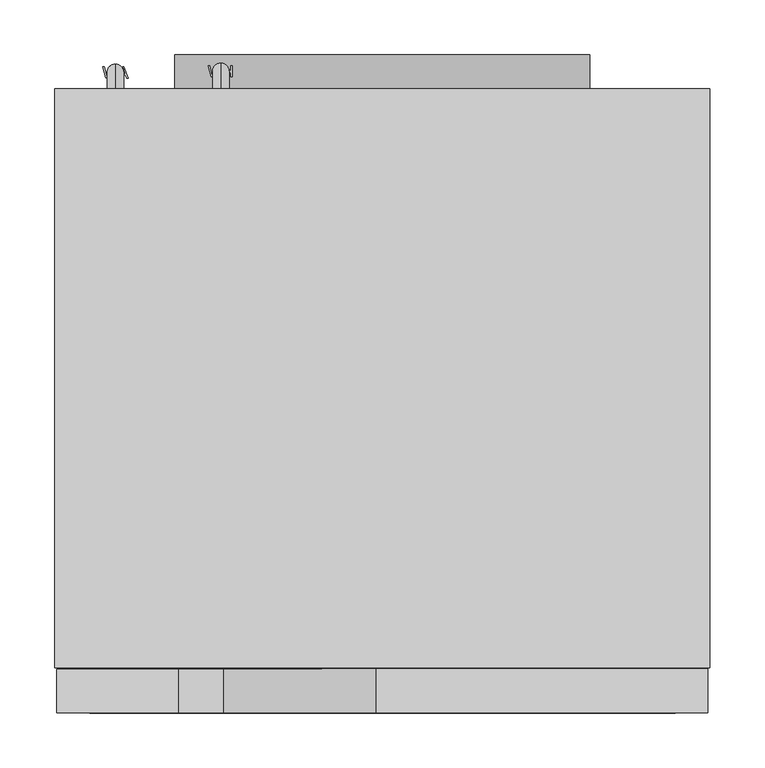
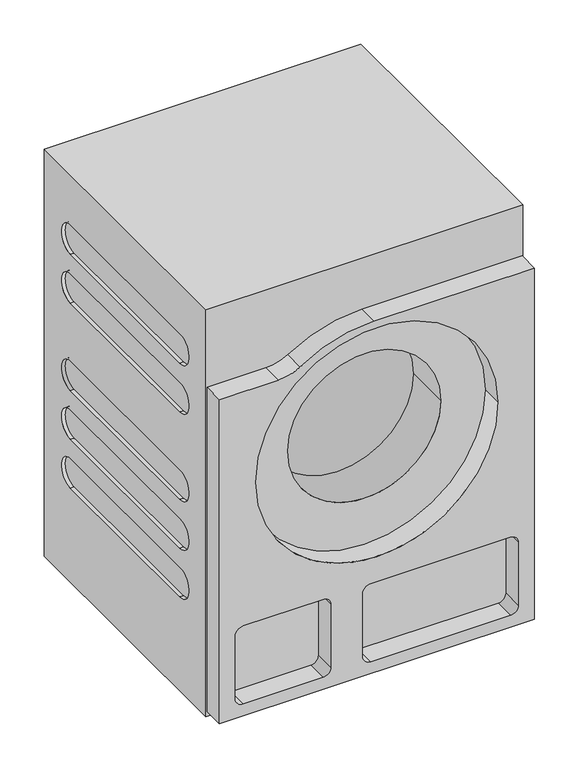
"""IFC4 building model written with IfcOpenShell, lengths in millimetres: proxy geometry, 11005920_CH_WCR860WPS_LW : 11CR8606_CH_11005920_WCR860WPS_LW."""

from ifc_helpers import new_model, si_unit, point, frame, frame_2d, origin, origin_with_axes, place, context, project, spatial, polyline, circle_curve, ellipse_curve, trimmed, segment, composite_curve, outline, extrude, source, transform, mapped, element, save
from ifc_brep_helpers import plane_surface, cylinder_surface, revolved_surface, advanced_brep


def specialty_equipment_07e524df(model_context):
    return source(origin(), model_context, "Body", "SolidModel", [
        extrude(outline(composite_curve([segment(polyline([(663.5, -296.5), (18.0, -296.5), (18.0, 296.5), (717.5, 296.5), (717.5, -5.7577941)]), True, "CONTINUOUS"), segment(trimmed(circle_curve(frame_2d((468.7317583, -5.7577941)), 248.7682417), [point((717.5, -5.7577941))], [point((674.9462734, -144.9023658))], False, "CARTESIAN"), True, "CONTINUOUS"), segment(trimmed(circle_curve(frame_2d((742.0250428, -185.7266361)), 78.5250428), [point((674.9462734, -144.9023658))], [point((663.5, -185.7266361))], True, "CARTESIAN"), True, "CONTINUOUS"), segment(polyline([(663.5, -185.7266361), (663.5, -296.5)]), True, "CONTINUOUS")], self_intersect=False), holes=[composite_curve([segment(trimmed(circle_curve(frame_2d((475.0, 0.0)), 228.0), [point((475.0, -228.0))], [point((475.0, 228.0))], True, "CARTESIAN"), True, "CONTINUOUS"), segment(trimmed(circle_curve(frame_2d((475.0, 0.0)), 228.0), [point((475.0, 228.0))], [point((475.0, -228.0))], True, "CARTESIAN"), True, "CONTINUOUS")], self_intersect=False), composite_curve([segment(polyline([(182.0, 266.5), (57.0, 266.5)]), True, "CONTINUOUS"), segment(trimmed(circle_curve(frame_2d((57.0, 251.5)), 15.0), [point((57.0, 266.5))], [point((42.0, 251.5))], True, "CARTESIAN"), True, "CONTINUOUS"), segment(polyline([(42.0, 251.5), (42.0, -11.5)]), True, "CONTINUOUS"), segment(trimmed(circle_curve(frame_2d((57.0, -11.5)), 15.0), [point((42.0, -11.5))], [point((57.0, -26.5))], True, "CARTESIAN"), True, "CONTINUOUS"), segment(polyline([(57.0, -26.5), (182.0, -26.5)]), True, "CONTINUOUS"), segment(trimmed(circle_curve(frame_2d((182.0, -11.5)), 15.0), [point((182.0, -26.5))], [point((197.0, -11.5))], True, "CARTESIAN"), True, "CONTINUOUS"), segment(polyline([(197.0, -11.5), (197.0, 251.5)]), True, "CONTINUOUS"), segment(trimmed(circle_curve(frame_2d((182.0, 251.5)), 15.0), [point((197.0, 251.5))], [point((182.0, 266.5))], True, "CARTESIAN"), True, "CONTINUOUS")], self_intersect=False), composite_curve([segment(polyline([(182.0, -86.5), (57.0, -86.5)]), True, "CONTINUOUS"), segment(trimmed(circle_curve(frame_2d((57.0, -101.5)), 15.0), [point((57.0, -86.5))], [point((42.0, -101.5))], True, "CARTESIAN"), True, "CONTINUOUS"), segment(polyline([(42.0, -101.5), (42.0, -251.5)]), True, "CONTINUOUS"), segment(trimmed(circle_curve(frame_2d((57.0, -251.5)), 15.0), [point((42.0, -251.5))], [point((57.0, -266.5))], True, "CARTESIAN"), True, "CONTINUOUS"), segment(polyline([(57.0, -266.5), (182.0, -266.5)]), True, "CONTINUOUS"), segment(trimmed(circle_curve(frame_2d((182.0, -251.5)), 15.0), [point((182.0, -266.5))], [point((197.0, -251.5))], True, "CARTESIAN"), True, "CONTINUOUS"), segment(polyline([(197.0, -251.5), (197.0, -101.5)]), True, "CONTINUOUS"), segment(trimmed(circle_curve(frame_2d((182.0, -101.5)), 15.0), [point((197.0, -101.5))], [point((182.0, -86.5))], True, "CARTESIAN"), True, "CONTINUOUS")], self_intersect=False)]), frame((0.0, -600.0, 0.0), z_axis=(0.0, 1.0, 0.0), x_axis=(0.0, 0.0, 1.0)), (0.0, 0.0, 1.0), 40.0),
        extrude(outline(composite_curve([segment(trimmed(circle_curve(frame_2d((172.0, 0.0)), 85.0), [point((128.0, -72.7255113))], [point((128.0, 72.7255113))], False, "CARTESIAN"), True, "CONTINUOUS"), segment(polyline([(128.0, 72.7255113), (457.0, 186.7618805)]), True, "CONTINUOUS"), segment(trimmed(circle_curve(frame_2d((486.0, 0.0)), 189.0), [point((457.0, 186.7618805))], [point((457.0, -186.7618805))], False, "CARTESIAN"), True, "CONTINUOUS"), segment(polyline([(457.0, -186.7618805), (128.0, -72.7255113)]), True, "CONTINUOUS")], self_intersect=False)), frame((0.0, -32.0, 0.0), z_axis=(0.0, 1.0, 0.0), x_axis=(0.0, 0.0, 1.0)), (0.0, 0.0, 1.0), 31.0),
        extrude(outline(polyline([(-245.0283197, -21.9198802), (-247.6226621, -13.1308402), (-250.3496859, -21.9195554), (-251.6847859, -21.9195554), (-254.4297172, -11.8631004), (-253.1339679, -11.8631004), (-251.0443144, -20.5032988), (-248.5340813, -11.857379), (-246.6711164, -11.857379), (-244.1552565, -20.5022346), (-242.0681971, -11.8564437), (-240.7754796, -11.8564437), (-243.5175667, -21.9198802), (-245.0283197, -21.9198802)])), frame((0.0, 0.0, 722.0), z_axis=(0.0, 0.0, 1.0), x_axis=(1.0, 0.0, 0.0)), (0.0, 0.0, 1.0), 1.0),
        extrude(outline(polyline([(-239.0721098, -22.0032768), (-240.4069745, -22.0032768), (-236.3935979, -11.9549404), (-235.3188514, -11.9549404), (-231.3155433, -21.9958861), (-232.6216403, -21.9958861), (-233.7882604, -18.865268), (-237.929968, -18.865268), (-239.0721098, -22.0032768)]), holes=[polyline([(-237.4730851, -17.6099926), (-234.256037, -17.6099926), (-235.8835115, -13.2426749), (-237.4730851, -17.6099926)])]), frame((0.0, 0.0, 722.0), z_axis=(0.0, 0.0, 1.0), x_axis=(1.0, 0.0, 0.0)), (0.0, 0.0, 1.0), 1.0),
        extrude(outline(polyline([(-149.0371951, -21.0084005), (-151.6315375, -12.2193606), (-154.3585613, -21.0080758), (-155.6936613, -21.0080758), (-158.4385926, -10.9516208), (-157.1428433, -10.9516208), (-155.0531898, -19.5918192), (-152.5429567, -10.9458994), (-150.6799918, -10.9458994), (-148.1641319, -19.590755), (-146.0770725, -10.9449641), (-144.784355, -10.9449641), (-147.5264421, -21.0084005), (-149.0371951, -21.0084005)])), frame((0.0, 0.0, 728.0), z_axis=(0.0, 0.0, 1.0), x_axis=(1.0, 0.0, 0.0)), (0.0, 0.0, 1.0), 1.0),
        extrude(outline(polyline([(-137.7520367, -21.0), (-137.7520367, -17.5380382), (-139.4320631, -15.9333791), (-143.267056, -20.9969068), (-144.8092352, -20.9969068), (-140.3268814, -15.0786372), (-144.6471582, -10.9521715), (-142.8938795, -10.9521715), (-137.7520367, -15.8633471), (-137.7520367, -10.9502531), (-136.4793974, -10.9502531), (-136.4793974, -21.0), (-137.7520367, -21.0)])), frame((0.0, 0.0, 728.0), z_axis=(0.0, 0.0, 1.0), x_axis=(1.0, 0.0, 0.0)), (0.0, 0.0, 1.0), 1.0),
        advanced_brep(
        [(-243.0, -32.0, 760.5), (-243.0, -32.0, 745.5), (-243.0, -9.5, 760.5), (-243.0, -24.5, 745.5), (-243.0, -9.5, 723.0), (-243.0, -24.5, 723.0)],
        [
            (0, 1, circle_curve(frame((-243.0, -32.0, 753.0), z_axis=(0.0, -1.0, 0.0), x_axis=(0.0, 0.0, -1.0)), 7.5)),
            (1, 0, circle_curve(frame((-243.0, -32.0, 753.0), z_axis=(0.0, -1.0, 0.0), x_axis=(0.0, 0.0, -1.0)), 7.5)),
            (0, 2),
            (2, 3, ellipse_curve(frame((-243.0, -17.0, 753.0), z_axis=(0.0, -0.7071067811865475, 0.7071067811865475), x_axis=(0.0, -0.7071067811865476, -0.7071067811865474)), 10.6066017, 7.5)),
            (3, 1),
            (3, 2, ellipse_curve(frame((-243.0, -17.0, 753.0), z_axis=(0.0, -0.7071067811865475, 0.7071067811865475), x_axis=(0.0, -0.7071067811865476, -0.7071067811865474)), 10.6066017, 7.5)),
            (4, 5, circle_curve(frame((-243.0, -17.0, 723.0), z_axis=(0.0, 0.0, -1.0), x_axis=(0.0, -1.0, 0.0)), 7.5)),
            (5, 4, circle_curve(frame((-243.0, -17.0, 723.0), z_axis=(0.0, 0.0, -1.0), x_axis=(0.0, -1.0, 0.0)), 7.5)),
            (2, 4),
            (5, 3),
        ],
        [
            plane_surface(frame((-243.0, -32.0, 753.0), z_axis=(0.0, -1.0, 0.0), x_axis=(-1.0, 0.0, 0.0))),
            cylinder_surface(frame((-243.0, -32.0, 753.0), z_axis=(0.0, -1.0, 0.0), x_axis=(0.0, 0.0, -1.0)), 7.5),
            plane_surface(frame((-243.0, -17.0, 723.0), z_axis=(0.0, 0.0, -1.0), x_axis=(-1.0, 0.0, 0.0))),
            cylinder_surface(frame((-243.0, -17.0, 753.0), z_axis=(0.0, 0.0, 1.0), x_axis=(0.0, -1.0, 0.0)), 7.5),
        ],
        [
            (0, [[1, 2]]),
            (1, [[-1, 3, 4, 5]]),
            (1, [[-2, -5, 6, -3]]),
            (2, [[7, 8]]),
            (3, [[-4, 9, -8, 10]]),
            (3, [[-6, -10, -7, -9]]),
        ],
    ),
        advanced_brep(
        [(-147.0, -32.0, 766.5), (-147.0, -32.0, 751.5), (-147.0, -8.5, 766.5), (-147.0, -23.5, 751.5), (-147.0, -8.5, 729.0), (-147.0, -23.5, 729.0)],
        [
            (0, 1, circle_curve(frame((-147.0, -32.0, 759.0), z_axis=(0.0, -1.0, 0.0), x_axis=(0.0, 0.0, -1.0)), 7.5)),
            (1, 0, circle_curve(frame((-147.0, -32.0, 759.0), z_axis=(0.0, -1.0, 0.0), x_axis=(0.0, 0.0, -1.0)), 7.5)),
            (0, 2),
            (2, 3, ellipse_curve(frame((-147.0, -16.0, 759.0), z_axis=(0.0, -0.70710678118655, 0.707106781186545), x_axis=(0.0, -0.7071067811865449, -0.70710678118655)), 10.6066017, 7.5)),
            (3, 1),
            (3, 2, ellipse_curve(frame((-147.0, -16.0, 759.0), z_axis=(0.0, -0.70710678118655, 0.707106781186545), x_axis=(0.0, -0.7071067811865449, -0.70710678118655)), 10.6066017, 7.5)),
            (4, 5, circle_curve(frame((-147.0, -16.0, 729.0), z_axis=(0.0, 0.0, -1.0), x_axis=(0.0, -1.0, 0.0)), 7.5)),
            (5, 4, circle_curve(frame((-147.0, -16.0, 729.0), z_axis=(0.0, 0.0, -1.0), x_axis=(0.0, -1.0, 0.0)), 7.5)),
            (2, 4),
            (5, 3),
        ],
        [
            plane_surface(frame((-147.0, -32.0, 759.0), z_axis=(0.0, -1.0, 0.0), x_axis=(-1.0, 0.0, 0.0))),
            cylinder_surface(frame((-147.0, -32.0, 759.0), z_axis=(0.0, -1.0, 0.0), x_axis=(0.0, 0.0, -1.0)), 7.5),
            plane_surface(frame((-147.0, -16.0, 729.0), z_axis=(0.0, 0.0, -1.0), x_axis=(-1.0, 0.0, 0.0))),
            cylinder_surface(frame((-147.0, -16.0, 759.0), z_axis=(0.0, 0.0, 1.0), x_axis=(0.0, -1.0, 0.0)), 7.5),
        ],
        [
            (0, [[1, 2]]),
            (1, [[-1, 3, 4, 5]]),
            (1, [[-2, -5, 6, -3]]),
            (2, [[7, 8]]),
            (3, [[-4, 9, -8, 10]]),
            (3, [[-6, -10, -7, -9]]),
        ],
    ),
        extrude(outline(polyline([(-24.1489694, 55.8141378), (-30.1201763, 55.8141378), (-30.1201763, 52.8005704), (-24.4569949, 52.8005704), (-24.4569949, 51.521084), (-30.1201763, 51.521084), (-30.1201763, 48.2496698), (-23.9879713, 48.2496698), (-23.9879713, 46.9701834), (-31.3464231, 46.9701834), (-31.3464231, 57.0455767), (-24.1489694, 57.0455767), (-24.1489694, 55.8141378)])), frame((-91.0, 0.0, 0.0), z_axis=(1.0, 0.0, 0.0), x_axis=(0.0, 1.0, 0.0)), (0.0, 0.0, 1.0), 1.0),
        extrude(outline(polyline([(-20.8531587, 57.0429653), (-20.8531587, 48.2519801), (-15.8267296, 48.2519801), (-15.8267296, 46.9971234), (-22.1029105, 46.9971234), (-22.1029105, 57.0429653), (-20.8531587, 57.0429653)])), frame((-91.0, 0.0, 0.0), z_axis=(1.0, 0.0, 0.0), x_axis=(0.0, 1.0, 0.0)), (0.0, 0.0, 1.0), 1.0),
        extrude(outline(composite_curve([segment(trimmed(circle_curve(frame_2d((-24.5, 52.0)), 7.5), [point((-24.5, 44.5))], [point((-24.5, 59.5))], False, "CARTESIAN"), True, "CONTINUOUS"), segment(trimmed(circle_curve(frame_2d((-24.5, 52.0)), 7.5), [point((-24.5, 59.5))], [point((-24.5, 44.5))], False, "CARTESIAN"), True, "CONTINUOUS")], self_intersect=False)), frame((-121.0, 0.0, 0.0), z_axis=(1.0, 0.0, 0.0), x_axis=(0.0, 1.0, 0.0)), (0.0, 0.0, 1.0), 30.0),
        extrude(outline(polyline([(-157.0, -17.0), (-121.0, -17.0), (-121.0, -32.0), (-157.0, -32.0), (-157.0, -17.0)])), frame((0.0, 0.0, 38.5), z_axis=(0.0, 0.0, 1.0), x_axis=(1.0, 0.0, 0.0)), (0.0, 0.0, 1.0), 27.0),
        advanced_brep(
        [(298.0, -32.0, 818.0), (-298.0, -32.0, 818.0), (-298.0, -559.0, 818.0), (298.0, -559.0, 818.0), (298.0, -32.0, 8.0), (298.0, -559.0, 8.0), (-298.0, -559.0, 8.0), (-298.0, -32.0, 8.0), (-298.0, -117.0, 253.0), (-298.0, -474.0, 253.0), (-298.0, -474.0, 195.0), (-298.0, -117.0, 195.0), (-298.0, -117.0, 350.0), (-298.0, -474.0, 350.0), (-298.0, -474.0, 292.0), (-298.0, -117.0, 292.0), (-298.0, -474.0, 563.0), (-298.0, -117.0, 563.0), (-298.0, -117.0, 621.0), (-298.0, -474.0, 621.0), (-298.0, -117.0, 718.0), (-298.0, -474.0, 718.0), (-298.0, -474.0, 660.0), (-298.0, -117.0, 660.0), (-298.0, -117.0, 447.0), (-298.0, -474.0, 447.0), (-298.0, -474.0, 389.0), (-298.0, -117.0, 389.0), (144.0, -559.0, 482.0), (-144.0, -559.0, 482.0), (298.0, -474.0, 253.0), (298.0, -117.0, 253.0), (298.0, -117.0, 195.0), (298.0, -474.0, 195.0), (298.0, -474.0, 350.0), (298.0, -117.0, 350.0), (298.0, -117.0, 292.0), (298.0, -474.0, 292.0), (298.0, -117.0, 563.0), (298.0, -474.0, 563.0), (298.0, -474.0, 621.0), (298.0, -117.0, 621.0), (298.0, -474.0, 718.0), (298.0, -117.0, 718.0), (298.0, -117.0, 660.0), (298.0, -474.0, 660.0), (298.0, -474.0, 447.0), (298.0, -117.0, 447.0), (298.0, -117.0, 389.0), (298.0, -474.0, 389.0), (291.0, -117.0, 253.0), (291.0, -474.0, 253.0), (291.0, -474.0, 195.0), (291.0, -117.0, 195.0), (291.0, -117.0, 350.0), (291.0, -474.0, 350.0), (291.0, -474.0, 292.0), (291.0, -117.0, 292.0), (291.0, -474.0, 563.0), (291.0, -117.0, 563.0), (291.0, -117.0, 621.0), (291.0, -474.0, 621.0), (291.0, -117.0, 718.0), (291.0, -474.0, 718.0), (291.0, -474.0, 660.0), (291.0, -117.0, 660.0), (-291.0, -117.0, 253.0), (-291.0, -117.0, 195.0), (-291.0, -474.0, 195.0), (-291.0, -474.0, 253.0), (-291.0, -117.0, 350.0), (-291.0, -117.0, 292.0), (-291.0, -474.0, 292.0), (-291.0, -474.0, 350.0), (-291.0, -474.0, 563.0), (-291.0, -474.0, 621.0), (-291.0, -117.0, 621.0), (-291.0, -117.0, 563.0), (-291.0, -117.0, 718.0), (-291.0, -117.0, 660.0), (-291.0, -474.0, 660.0), (-291.0, -474.0, 718.0), (-144.0, -471.0, 482.0), (144.0, -471.0, 482.0), (240.0, -148.0, 482.0), (-240.0, -148.0, 482.0), (240.0, -471.0, 482.0), (-240.0, -471.0, 482.0), (291.0, -117.0, 447.0), (291.0, -474.0, 447.0), (291.0, -474.0, 389.0), (291.0, -117.0, 389.0), (-291.0, -117.0, 447.0), (-291.0, -117.0, 389.0), (-291.0, -474.0, 389.0), (-291.0, -474.0, 447.0)],
        [
            (0, 1),
            (1, 2),
            (2, 3),
            (3, 0),
            (4, 5),
            (5, 6),
            (6, 7),
            (7, 4),
            (0, 4),
            (7, 1),
            (6, 2),
            (8, 9),
            (9, 10, circle_curve(frame((-298.0, -474.0, 224.0), z_axis=(1.0, 0.0, 0.0), x_axis=(0.0, 0.0, 1.0)), 29.0)),
            (10, 11),
            (11, 8, circle_curve(frame((-298.0, -117.0, 224.0), z_axis=(1.0, 0.0, 0.0), x_axis=(0.0, 0.0, 1.0)), 29.0)),
            (12, 13),
            (13, 14, circle_curve(frame((-298.0, -474.0, 321.0), z_axis=(1.0, 0.0, 0.0), x_axis=(0.0, 0.0, 1.0)), 29.0)),
            (14, 15),
            (15, 12, circle_curve(frame((-298.0, -117.0, 321.0), z_axis=(1.0, 0.0, 0.0), x_axis=(0.0, 0.0, 1.0)), 29.0)),
            (16, 17),
            (17, 18, circle_curve(frame((-298.0, -117.0, 592.0), z_axis=(1.0, 0.0, 0.0), x_axis=(0.0, 0.0, 1.0)), 29.0)),
            (18, 19),
            (19, 16, circle_curve(frame((-298.0, -474.0, 592.0), z_axis=(1.0, 0.0, 0.0), x_axis=(0.0, 0.0, 1.0)), 29.0)),
            (20, 21),
            (21, 22, circle_curve(frame((-298.0, -474.0, 689.0), z_axis=(1.0, 0.0, 0.0), x_axis=(0.0, 0.0, 1.0)), 29.0)),
            (22, 23),
            (23, 20, circle_curve(frame((-298.0, -117.0, 689.0), z_axis=(1.0, 0.0, 0.0), x_axis=(0.0, 0.0, 1.0)), 29.0)),
            (24, 25),
            (25, 26, circle_curve(frame((-298.0, -474.0, 418.0), z_axis=(1.0, 0.0, 0.0), x_axis=(0.0, 0.0, -1.0)), 29.0)),
            (26, 27),
            (27, 24, circle_curve(frame((-298.0, -117.0, 418.0), z_axis=(1.0, 0.0, 0.0), x_axis=(0.0, 0.0, -1.0)), 29.0)),
            (5, 3),
            (28, 29, circle_curve(frame((0.0, -559.0, 482.0), z_axis=(0.0, 1.0, 0.0), x_axis=(-1.0, 0.0, 0.0)), 144.0)),
            (29, 28, circle_curve(frame((0.0, -559.0, 482.0), z_axis=(0.0, 1.0, 0.0), x_axis=(-1.0, 0.0, 0.0)), 144.0)),
            (30, 31),
            (31, 32, circle_curve(frame((298.0, -117.0, 224.0), z_axis=(-1.0, 0.0, 0.0), x_axis=(0.0, 0.0, 1.0)), 29.0)),
            (32, 33),
            (33, 30, circle_curve(frame((298.0, -474.0, 224.0), z_axis=(-1.0, 0.0, 0.0), x_axis=(0.0, 0.0, 1.0)), 29.0)),
            (34, 35),
            (35, 36, circle_curve(frame((298.0, -117.0, 321.0), z_axis=(-1.0, 0.0, 0.0), x_axis=(0.0, 0.0, 1.0)), 29.0)),
            (36, 37),
            (37, 34, circle_curve(frame((298.0, -474.0, 321.0), z_axis=(-1.0, 0.0, 0.0), x_axis=(0.0, 0.0, 1.0)), 29.0)),
            (38, 39),
            (39, 40, circle_curve(frame((298.0, -474.0, 592.0), z_axis=(-1.0, 0.0, 0.0), x_axis=(0.0, 0.0, 1.0)), 29.0)),
            (40, 41),
            (41, 38, circle_curve(frame((298.0, -117.0, 592.0), z_axis=(-1.0, 0.0, 0.0), x_axis=(0.0, 0.0, 1.0)), 29.0)),
            (42, 43),
            (43, 44, circle_curve(frame((298.0, -117.0, 689.0), z_axis=(-1.0, 0.0, 0.0), x_axis=(0.0, 0.0, 1.0)), 29.0)),
            (44, 45),
            (45, 42, circle_curve(frame((298.0, -474.0, 689.0), z_axis=(-1.0, 0.0, 0.0), x_axis=(0.0, 0.0, 1.0)), 29.0)),
            (46, 47),
            (47, 48, circle_curve(frame((298.0, -117.0, 418.0), z_axis=(-1.0, 0.0, 0.0), x_axis=(0.0, 0.0, -1.0)), 29.0)),
            (48, 49),
            (49, 46, circle_curve(frame((298.0, -474.0, 418.0), z_axis=(-1.0, 0.0, 0.0), x_axis=(0.0, 0.0, -1.0)), 29.0)),
            (50, 51),
            (51, 52, circle_curve(frame((291.0, -474.0, 224.0), z_axis=(1.0, 0.0, 0.0), x_axis=(0.0, 0.0, 1.0)), 29.0)),
            (52, 53),
            (53, 50, circle_curve(frame((291.0, -117.0, 224.0), z_axis=(1.0, 0.0, 0.0), x_axis=(0.0, 0.0, 1.0)), 29.0)),
            (54, 55),
            (55, 56, circle_curve(frame((291.0, -474.0, 321.0), z_axis=(1.0, 0.0, 0.0), x_axis=(0.0, 0.0, 1.0)), 29.0)),
            (56, 57),
            (57, 54, circle_curve(frame((291.0, -117.0, 321.0), z_axis=(1.0, 0.0, 0.0), x_axis=(0.0, 0.0, 1.0)), 29.0)),
            (58, 59),
            (59, 60, circle_curve(frame((291.0, -117.0, 592.0), z_axis=(1.0, 0.0, 0.0), x_axis=(0.0, 0.0, 1.0)), 29.0)),
            (60, 61),
            (61, 58, circle_curve(frame((291.0, -474.0, 592.0), z_axis=(1.0, 0.0, 0.0), x_axis=(0.0, 0.0, 1.0)), 29.0)),
            (62, 63),
            (63, 64, circle_curve(frame((291.0, -474.0, 689.0), z_axis=(1.0, 0.0, 0.0), x_axis=(0.0, 0.0, 1.0)), 29.0)),
            (64, 65),
            (65, 62, circle_curve(frame((291.0, -117.0, 689.0), z_axis=(1.0, 0.0, 0.0), x_axis=(0.0, 0.0, 1.0)), 29.0)),
            (50, 31),
            (30, 51),
            (33, 52),
            (32, 53),
            (54, 35),
            (34, 55),
            (37, 56),
            (36, 57),
            (58, 39),
            (38, 59),
            (41, 60),
            (40, 61),
            (62, 43),
            (42, 63),
            (45, 64),
            (44, 65),
            (66, 67, circle_curve(frame((-291.0, -117.0, 224.0), z_axis=(-1.0, 0.0, 0.0), x_axis=(0.0, 0.0, 1.0)), 29.0)),
            (67, 68),
            (68, 69, circle_curve(frame((-291.0, -474.0, 224.0), z_axis=(-1.0, 0.0, 0.0), x_axis=(0.0, 0.0, 1.0)), 29.0)),
            (69, 66),
            (70, 71, circle_curve(frame((-291.0, -117.0, 321.0), z_axis=(-1.0, 0.0, 0.0), x_axis=(0.0, 0.0, 1.0)), 29.0)),
            (71, 72),
            (72, 73, circle_curve(frame((-291.0, -474.0, 321.0), z_axis=(-1.0, 0.0, 0.0), x_axis=(0.0, 0.0, 1.0)), 29.0)),
            (73, 70),
            (74, 75, circle_curve(frame((-291.0, -474.0, 592.0), z_axis=(-1.0, 0.0, 0.0), x_axis=(0.0, 0.0, 1.0)), 29.0)),
            (75, 76),
            (76, 77, circle_curve(frame((-291.0, -117.0, 592.0), z_axis=(-1.0, 0.0, 0.0), x_axis=(0.0, 0.0, 1.0)), 29.0)),
            (77, 74),
            (78, 79, circle_curve(frame((-291.0, -117.0, 689.0), z_axis=(-1.0, 0.0, 0.0), x_axis=(0.0, 0.0, 1.0)), 29.0)),
            (79, 80),
            (80, 81, circle_curve(frame((-291.0, -474.0, 689.0), z_axis=(-1.0, 0.0, 0.0), x_axis=(0.0, 0.0, 1.0)), 29.0)),
            (81, 78),
            (69, 9),
            (8, 66),
            (68, 10),
            (67, 11),
            (73, 13),
            (12, 70),
            (72, 14),
            (71, 15),
            (77, 17),
            (16, 74),
            (76, 18),
            (75, 19),
            (81, 21),
            (20, 78),
            (80, 22),
            (79, 23),
            (82, 29),
            (28, 83),
            (83, 82, circle_curve(frame((0.0, -471.0, 482.0), z_axis=(0.0, 1.0, 0.0), x_axis=(-1.0, 0.0, 0.0)), 144.0)),
            (82, 83, circle_curve(frame((0.0, -471.0, 482.0), z_axis=(0.0, 1.0, 0.0), x_axis=(-1.0, 0.0, 0.0)), 144.0)),
            (84, 85, circle_curve(frame((0.0, -148.0, 482.0), z_axis=(0.0, -1.0, 0.0), x_axis=(-1.0, 0.0, 0.0)), 240.0)),
            (85, 84, circle_curve(frame((0.0, -148.0, 482.0), z_axis=(0.0, -1.0, 0.0), x_axis=(-1.0, 0.0, 0.0)), 240.0)),
            (86, 87, circle_curve(frame((0.0, -471.0, 482.0), z_axis=(0.0, 1.0, 0.0), x_axis=(-1.0, 0.0, 0.0)), 240.0)),
            (87, 86, circle_curve(frame((0.0, -471.0, 482.0), z_axis=(0.0, 1.0, 0.0), x_axis=(-1.0, 0.0, 0.0)), 240.0)),
            (85, 87),
            (86, 84),
            (88, 89),
            (89, 90, circle_curve(frame((291.0, -474.0, 418.0), z_axis=(1.0, 0.0, 0.0), x_axis=(0.0, 0.0, -1.0)), 29.0)),
            (90, 91),
            (91, 88, circle_curve(frame((291.0, -117.0, 418.0), z_axis=(1.0, 0.0, 0.0), x_axis=(0.0, 0.0, -1.0)), 29.0)),
            (88, 47),
            (46, 89),
            (49, 90),
            (48, 91),
            (92, 93, circle_curve(frame((-291.0, -117.0, 418.0), z_axis=(-1.0, 0.0, 0.0), x_axis=(0.0, 0.0, -1.0)), 29.0)),
            (93, 94),
            (94, 95, circle_curve(frame((-291.0, -474.0, 418.0), z_axis=(-1.0, 0.0, 0.0), x_axis=(0.0, 0.0, -1.0)), 29.0)),
            (95, 92),
            (95, 25),
            (24, 92),
            (94, 26),
            (93, 27),
        ],
        [
            plane_surface(frame((-298.0, -32.0, 818.0), z_axis=(0.0, 0.0, 1.0), x_axis=(-1.0, 0.0, 0.0))),
            plane_surface(frame((-298.0, -32.0, 8.0), z_axis=(0.0, 0.0, -1.0), x_axis=(1.0, 0.0, 0.0))),
            plane_surface(frame((298.0, -32.0, 818.0), z_axis=(0.0, 1.0, 0.0), x_axis=(0.0, 0.0, -1.0))),
            plane_surface(frame((-298.0, -32.0, 818.0), z_axis=(-1.0, 0.0, 0.0), x_axis=(0.0, 0.0, -1.0))),
            plane_surface(frame((-298.0, -559.0, 818.0), z_axis=(0.0, -1.0, 0.0), x_axis=(0.0, 0.0, -1.0))),
            plane_surface(frame((298.0, -559.0, 818.0), z_axis=(1.0, 0.0, 0.0), x_axis=(0.0, 0.0, -1.0))),
            plane_surface(frame((291.0, -474.0, 253.0), z_axis=(1.0, 0.0, 0.0), x_axis=(0.0, 1.0, 0.0))),
            plane_surface(frame((298.0, -117.0, 253.0), z_axis=(0.0, 0.0, -1.0), x_axis=(-1.0, 0.0, 0.0))),
            revolved_surface(polyline([(298.0, -474.0, 253.0), (291.0, -474.0, 253.0)]), (291.0, -474.0, 224.0), (1.0, 0.0, 0.0)),
            plane_surface(frame((298.0, -474.0, 195.0), z_axis=(0.0, 0.0, 1.0), x_axis=(-1.0, 0.0, 0.0))),
            revolved_surface(polyline([(298.0, -117.0, 253.0), (291.0, -117.0, 253.0)]), (291.0, -117.0, 224.0), (1.0, 0.0, 0.0)),
            plane_surface(frame((298.0, -117.0, 350.0), z_axis=(0.0, 0.0, -1.0), x_axis=(-1.0, 0.0, 0.0))),
            revolved_surface(polyline([(298.0, -474.0, 350.0), (291.0, -474.0, 350.0)]), (298.0, -474.0, 321.0), (1.0, 0.0, 0.0)),
            plane_surface(frame((298.0, -474.0, 292.0), z_axis=(0.0, 0.0, 1.0), x_axis=(-1.0, 0.0, 0.0))),
            revolved_surface(polyline([(298.0, -117.0, 350.0), (291.0, -117.0, 350.0)]), (298.0, -117.0, 321.0), (1.0, 0.0, 0.0)),
            plane_surface(frame((298.0, -474.0, 563.0), z_axis=(0.0, 0.0, 1.0), x_axis=(-1.0, 0.0, 0.0))),
            revolved_surface(polyline([(298.0, -117.0, 621.0), (291.0, -117.0, 621.0)]), (298.0, -117.0, 592.0), (1.0, 0.0, 0.0)),
            plane_surface(frame((298.0, -117.0, 621.0), z_axis=(0.0, 0.0, -1.0), x_axis=(-1.0, 0.0, 0.0))),
            revolved_surface(polyline([(298.0, -474.0, 621.0), (291.0, -474.0, 621.0)]), (298.0, -474.0, 592.0), (1.0, 0.0, 0.0)),
            plane_surface(frame((298.0, -117.0, 718.0), z_axis=(0.0, 0.0, -1.0), x_axis=(-1.0, 0.0, 0.0))),
            revolved_surface(polyline([(298.0, -474.0, 718.0), (291.0, -474.0, 718.0)]), (298.0, -474.0, 689.0), (1.0, 0.0, 0.0)),
            plane_surface(frame((298.0, -474.0, 660.0), z_axis=(0.0, 0.0, 1.0), x_axis=(-1.0, 0.0, 0.0))),
            revolved_surface(polyline([(298.0, -117.0, 718.0), (291.0, -117.0, 718.0)]), (298.0, -117.0, 689.0), (1.0, 0.0, 0.0)),
            plane_surface(frame((-291.0, -474.0, 253.0), z_axis=(-1.0, 0.0, 0.0), x_axis=(0.0, -1.0, 0.0))),
            plane_surface(frame((-291.0, -117.0, 253.0), z_axis=(0.0, 0.0, -1.0), x_axis=(-1.0, 0.0, 0.0))),
            revolved_surface(polyline([(-291.0, -474.0, 253.0), (-298.0, -474.0, 253.0)]), (-298.0, -474.0, 224.0), (1.0, 0.0, 0.0)),
            plane_surface(frame((-291.0, -474.0, 195.0), z_axis=(0.0, 0.0, 1.0), x_axis=(-1.0, 0.0, 0.0))),
            revolved_surface(polyline([(-291.0, -117.0, 253.0), (-298.0, -117.0, 253.0)]), (-298.0, -117.0, 224.0), (1.0, 0.0, 0.0)),
            plane_surface(frame((-291.0, -117.0, 350.0), z_axis=(0.0, 0.0, -1.0), x_axis=(-1.0, 0.0, 0.0))),
            revolved_surface(polyline([(-291.0, -474.0, 350.0), (-298.0, -474.0, 350.0)]), (-298.0, -474.0, 321.0), (1.0, 0.0, 0.0)),
            plane_surface(frame((-291.0, -474.0, 292.0), z_axis=(0.0, 0.0, 1.0), x_axis=(-1.0, 0.0, 0.0))),
            revolved_surface(polyline([(-291.0, -117.0, 350.0), (-298.0, -117.0, 350.0)]), (-298.0, -117.0, 321.0), (1.0, 0.0, 0.0)),
            plane_surface(frame((-291.0, -474.0, 563.0), z_axis=(0.0, 0.0, 1.0), x_axis=(-1.0, 0.0, 0.0))),
            revolved_surface(polyline([(-291.0, -117.0, 621.0), (-298.0, -117.0, 621.0)]), (-298.0, -117.0, 592.0), (1.0, 0.0, 0.0)),
            plane_surface(frame((-291.0, -117.0, 621.0), z_axis=(0.0, 0.0, -1.0), x_axis=(-1.0, 0.0, 0.0))),
            revolved_surface(polyline([(-291.0, -474.0, 621.0), (-298.0, -474.0, 621.0)]), (-298.0, -474.0, 592.0), (1.0, 0.0, 0.0)),
            plane_surface(frame((-291.0, -117.0, 718.0), z_axis=(0.0, 0.0, -1.0), x_axis=(-1.0, 0.0, 0.0))),
            revolved_surface(polyline([(-291.0, -474.0, 718.0), (-298.0, -474.0, 718.0)]), (-298.0, -474.0, 689.0), (1.0, 0.0, 0.0)),
            plane_surface(frame((-291.0, -474.0, 660.0), z_axis=(0.0, 0.0, 1.0), x_axis=(-1.0, 0.0, 0.0))),
            revolved_surface(polyline([(-291.0, -117.0, 718.0), (-298.0, -117.0, 718.0)]), (-298.0, -117.0, 689.0), (1.0, 0.0, 0.0)),
            revolved_surface(polyline([(-144.0, -471.0, 482.0), (-144.0, -559.0, 482.0)]), (0.0, -559.0, 482.0), (0.0, 1.0, 0.0)),
            plane_surface(frame((-240.0, -148.0, 482.0), z_axis=(0.0, -1.0, 0.0), x_axis=(0.0, 0.0, 1.0))),
            plane_surface(frame((-240.0, -471.0, 482.0), z_axis=(0.0, 1.0, 0.0), x_axis=(0.0, 0.0, -1.0))),
            revolved_surface(polyline([(-240.0, -148.0, 482.0), (-240.0, -471.0, 482.0)]), (0.0, -471.0, 482.0), (0.0, 1.0, 0.0)),
            plane_surface(frame((291.0, -117.0, 389.0), z_axis=(1.0, 0.0, 0.0), x_axis=(0.0, -1.0, 0.0))),
            plane_surface(frame((291.0, -474.0, 447.0), z_axis=(0.0, 0.0, -1.0), x_axis=(1.0, 0.0, 0.0))),
            revolved_surface(polyline([(291.0, -474.0, 389.0), (298.0, -474.0, 389.0)]), (308.0, -474.0, 418.0), (-1.0, 0.0, 0.0)),
            plane_surface(frame((291.0, -117.0, 389.0), z_axis=(0.0, 0.0, 1.0), x_axis=(1.0, 0.0, 0.0))),
            revolved_surface(polyline([(291.0, -117.0, 389.0), (298.0, -117.0, 389.0)]), (308.0, -117.0, 418.0), (-1.0, 0.0, 0.0)),
            plane_surface(frame((-291.0, -117.0, 389.0), z_axis=(-1.0, 0.0, 0.0), x_axis=(0.0, 1.0, 0.0))),
            plane_surface(frame((-308.0, -474.0, 447.0), z_axis=(0.0, 0.0, -1.0), x_axis=(1.0, 0.0, 0.0))),
            revolved_surface(polyline([(-298.0, -474.0, 389.0), (-291.0, -474.0, 389.0)]), (-291.0, -474.0, 418.0), (-1.0, 0.0, 0.0)),
            plane_surface(frame((-308.0, -117.0, 389.0), z_axis=(0.0, 0.0, 1.0), x_axis=(1.0, 0.0, 0.0))),
            revolved_surface(polyline([(-298.0, -117.0, 389.0), (-291.0, -117.0, 389.0)]), (-291.0, -117.0, 418.0), (-1.0, 0.0, 0.0)),
        ],
        [
            (0, [[1, 2, 3, 4]]),
            (1, [[5, 6, 7, 8]]),
            (2, [[-1, 9, -8, 10]]),
            (3, [[-2, -10, -7, 11], [12, 13, 14, 15], [16, 17, 18, 19], [20, 21, 22, 23], [24, 25, 26, 27], [28, 29, 30, 31]]),
            (4, [[-3, -11, -6, 32], [33, 34]]),
            (5, [[-4, -32, -5, -9], [35, 36, 37, 38], [39, 40, 41, 42], [43, 44, 45, 46], [47, 48, 49, 50], [51, 52, 53, 54]]),
            (6, [[55, 56, 57, 58]]),
            (6, [[59, 60, 61, 62]]),
            (6, [[63, 64, 65, 66]]),
            (6, [[67, 68, 69, 70]]),
            (7, [[-55, 71, -35, 72]]),
            (8, [[-56, -72, -38, 73]]),
            (9, [[-57, -73, -37, 74]]),
            (10, [[-58, -74, -36, -71]]),
            (11, [[-59, 75, -39, 76]]),
            (12, [[-60, -76, -42, 77]]),
            (13, [[-61, -77, -41, 78]]),
            (14, [[-62, -78, -40, -75]]),
            (15, [[-63, 79, -43, 80]]),
            (16, [[-64, -80, -46, 81]]),
            (17, [[-65, -81, -45, 82]]),
            (18, [[-66, -82, -44, -79]]),
            (19, [[-67, 83, -47, 84]]),
            (20, [[-68, -84, -50, 85]]),
            (21, [[-69, -85, -49, 86]]),
            (22, [[-70, -86, -48, -83]]),
            (23, [[87, 88, 89, 90]]),
            (23, [[91, 92, 93, 94]]),
            (23, [[95, 96, 97, 98]]),
            (23, [[99, 100, 101, 102]]),
            (24, [[-90, 103, -12, 104]]),
            (25, [[-89, 105, -13, -103]]),
            (26, [[-88, 106, -14, -105]]),
            (27, [[-87, -104, -15, -106]]),
            (28, [[-94, 107, -16, 108]]),
            (29, [[-93, 109, -17, -107]]),
            (30, [[-92, 110, -18, -109]]),
            (31, [[-91, -108, -19, -110]]),
            (32, [[-98, 111, -20, 112]]),
            (33, [[-97, 113, -21, -111]]),
            (34, [[-96, 114, -22, -113]]),
            (35, [[-95, -112, -23, -114]]),
            (36, [[-102, 115, -24, 116]]),
            (37, [[-101, 117, -25, -115]]),
            (38, [[-100, 118, -26, -117]]),
            (39, [[-99, -116, -27, -118]]),
            (40, [[119, -33, 120, 121]]),
            (40, [[-119, 122, -120, -34]]),
            (41, [[123, 124]]),
            (42, [[125, 126], [-121, -122]]),
            (43, [[-124, 127, -125, 128]]),
            (43, [[-123, -128, -126, -127]]),
            (44, [[129, 130, 131, 132]]),
            (45, [[-129, 133, -51, 134]]),
            (46, [[-130, -134, -54, 135]]),
            (47, [[-131, -135, -53, 136]]),
            (48, [[-132, -136, -52, -133]]),
            (49, [[137, 138, 139, 140]]),
            (50, [[-140, 141, -28, 142]]),
            (51, [[-139, 143, -29, -141]]),
            (52, [[-138, 144, -30, -143]]),
            (53, [[-137, -142, -31, -144]]),
        ],
    ),
        extrude(outline(composite_curve([segment(trimmed(circle_curve(frame_2d((-267.5, -61.0)), 20.0), [point((-247.5, -61.0))], [point((-287.5, -61.0))], False, "CARTESIAN"), True, "CONTINUOUS"), segment(trimmed(circle_curve(frame_2d((-267.5, -61.0)), 20.0), [point((-287.5, -61.0))], [point((-247.5, -61.0))], False, "CARTESIAN"), True, "CONTINUOUS")], self_intersect=False)), origin_with_axes(), (0.0, 0.0, 1.0), 8.0),
        extrude(outline(composite_curve([segment(trimmed(circle_curve(frame_2d((267.5, -61.0)), 20.0), [point((287.5, -61.0))], [point((247.5, -61.0))], False, "CARTESIAN"), True, "CONTINUOUS"), segment(trimmed(circle_curve(frame_2d((267.5, -61.0)), 20.0), [point((247.5, -61.0))], [point((287.5, -61.0))], False, "CARTESIAN"), True, "CONTINUOUS")], self_intersect=False)), origin_with_axes(), (0.0, 0.0, 1.0), 8.0),
        extrude(outline(composite_curve([segment(trimmed(circle_curve(frame_2d((267.5, -531.0)), 20.0), [point((287.5, -531.0))], [point((247.5, -531.0))], False, "CARTESIAN"), True, "CONTINUOUS"), segment(trimmed(circle_curve(frame_2d((267.5, -531.0)), 20.0), [point((247.5, -531.0))], [point((287.5, -531.0))], False, "CARTESIAN"), True, "CONTINUOUS")], self_intersect=False)), origin_with_axes(), (0.0, 0.0, 1.0), 8.0),
        extrude(outline(composite_curve([segment(trimmed(circle_curve(frame_2d((-267.5, -531.0)), 20.0), [point((-247.5, -531.0))], [point((-287.5, -531.0))], False, "CARTESIAN"), True, "CONTINUOUS"), segment(trimmed(circle_curve(frame_2d((-267.5, -531.0)), 20.0), [point((-287.5, -531.0))], [point((-247.5, -531.0))], False, "CARTESIAN"), True, "CONTINUOUS")], self_intersect=False)), origin_with_axes(), (0.0, 0.0, 1.0), 8.0),
    ])


if __name__ == "__main__":
    model = new_model("IFC4")
    model_context = context("Model", 3, world=origin())
    ifc_project = project(units=[si_unit("LENGTHUNIT", "METRE", prefix="MILLI")], contexts=[model_context])
    site = spatial("IfcSite", under=ifc_project)
    building = spatial("IfcBuilding", under=site)
    placement = place(None, origin())
    specialty_equipment_shape = specialty_equipment_07e524df(model_context)
    element("IfcBuildingElementProxy", 1, Name="11005920_CH_WCR860WPS_LW : 11CR8606_CH_11005920_WCR860WPS_LW", ObjectType="11005920_CH_WCR860WPS_LW : 11CR8606_CH_11005920_WCR860WPS_LW", at=placement, inside=building, context=model_context, shape_type="MappedRepresentation", body=[
        mapped(specialty_equipment_shape, transform((0.0, 0.0, 0.0), x_axis=(1.0, 0.0, 0.0), y_axis=(0.0, 1.0, 0.0), z_axis=(0.0, 0.0, 1.0))),
    ])
    save(model, "model.ifc")
